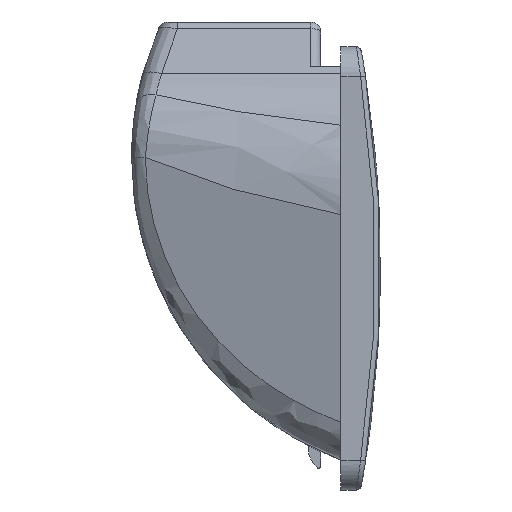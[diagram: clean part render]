
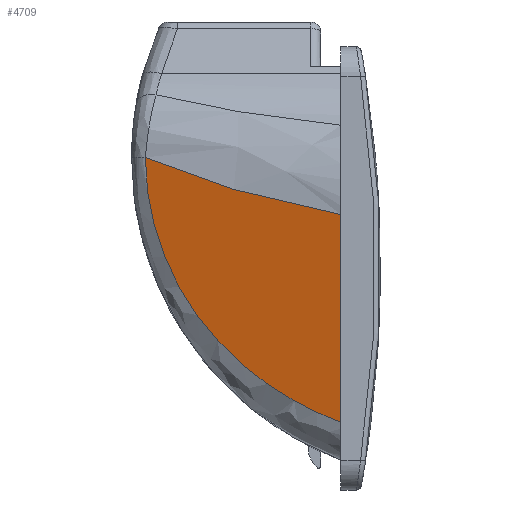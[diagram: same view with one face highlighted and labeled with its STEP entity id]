
A CAD part, left-side view. The second image highlights one B-rep face of the part: STEP entity #4709.
In plain terms, the highlighted planar face has unit normal (-0.952, 0.306, 0).
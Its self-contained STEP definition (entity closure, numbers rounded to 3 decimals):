
#16 = CARTESIAN_POINT ( 'NONE',  ( -41.565, 19.241, 25.993 ) ) ;
#117 = CARTESIAN_POINT ( 'NONE',  ( -44.093, 11.376, 10.983 ) ) ;
#182 = CARTESIAN_POINT ( 'NONE',  ( -46.861, 2.766, 4.845 ) ) ;
#194 = CARTESIAN_POINT ( 'NONE',  ( -47.75, 0., 95.5 ) ) ;
#224 = CARTESIAN_POINT ( 'NONE',  ( -44.231, 10.946, 10.567 ) ) ;
#257 = CARTESIAN_POINT ( 'NONE',  ( -43.262, 13.962, 13.932 ) ) ;
#538 = CARTESIAN_POINT ( 'NONE',  ( -42.147, 17.432, 19.821 ) ) ;
#541 = CARTESIAN_POINT ( 'NONE',  ( -41.446, 19.612, 30.393 ) ) ;
#709 = CARTESIAN_POINT ( 'NONE',  ( -45.307, 7.6, 7.808 ) ) ;
#725 = DIRECTION ( 'NONE',  ( 0., 0., -1. ) ) ;
#756 = LINE ( 'NONE', #4056, #2240 ) ;
#1205 = CARTESIAN_POINT ( 'NONE',  ( -43.119, 14.408, 28.046 ) ) ;
#1276 = CARTESIAN_POINT ( 'NONE',  ( -43.442, 13.404, 13.209 ) ) ;
#1315 = CARTESIAN_POINT ( 'NONE',  ( -42.506, 16.316, 17.564 ) ) ;
#1536 = ORIENTED_EDGE ( 'NONE', *, *, #5172, .T. ) ;
#1616 = CARTESIAN_POINT ( 'NONE',  ( -41.688, 18.86, 24.069 ) ) ;
#1649 = CARTESIAN_POINT ( 'NONE',  ( -41.461, 19.565, 28.519 ) ) ;
#1775 = CARTESIAN_POINT ( 'NONE',  ( -47.75, 0., 24.67 ) ) ;
#1780 = CARTESIAN_POINT ( 'NONE',  ( -45.271, 7.713, 7.889 ) ) ;
#1817 = CARTESIAN_POINT ( 'NONE',  ( -45.152, 8.082, 8.156 ) ) ;
#1842 = CARTESIAN_POINT ( 'NONE',  ( -46.05, 5.287, 6.17 ) ) ;
#2140 = CARTESIAN_POINT ( 'NONE',  ( -41.536, 19.332, 26.555 ) ) ;
#2172 = CARTESIAN_POINT ( 'NONE',  ( -41.867, 18.303, 22.18 ) ) ;
#2240 = VECTOR ( 'NONE', #725, 1000. ) ;
#2250 = CARTESIAN_POINT ( 'NONE',  ( -41.611, 19.098, 25.165 ) ) ;
#2323 = PLANE ( 'NONE',  #6277 ) ;
#2381 = CARTESIAN_POINT ( 'NONE',  ( -43.281, 13.905, 13.856 ) ) ;
#2411 = CARTESIAN_POINT ( 'NONE',  ( -47.75, 0., 3.808 ) ) ;
#2494 = CARTESIAN_POINT ( 'NONE',  ( -47.75, 0., 24.67 ) ) ;
#2670 = CARTESIAN_POINT ( 'NONE',  ( -41.446, 19.612, 30.393 ) ) ;
#2728 = ORIENTED_EDGE ( 'NONE', *, *, #6472, .T. ) ;
#2740 = CARTESIAN_POINT ( 'NONE',  ( -41.925, 18.122, 21.643 ) ) ;
#2869 = CARTESIAN_POINT ( 'NONE',  ( -43.05, 14.622, 14.825 ) ) ;
#2906 = CARTESIAN_POINT ( 'NONE',  ( -45.235, 7.824, 7.969 ) ) ;
#2992 = B_SPLINE_CURVE_WITH_KNOTS ( 'NONE', 3,
 ( #2670, #4822, #1649, #6975, #2140, #5375, #3789, #16, #2250, #1616, #3754, #2172, #5853, #5960, #2740, #4890, #538, #6659, #3968, #6624, #4471, #1315, #4566, #4957, #2869, #4536, #5481, #257, #2381, #1276, #5050, #3327, #117, #3998, #3894, #3367, #224, #3467, #6584, #6134, #1817, #2906, #1780, #6688, #709, #1842, #182, #2411 ),
 .UNSPECIFIED., .F., .F.,
 ( 4, 1, 1, 1, 2, 2, 1, 1, 1, 2, 2, 1, 1, 1, 2, 2, 1, 1, 1, 2, 2, 1, 1, 1, 1, 2, 2, 1, 1, 1, 1, 2, 2, 4 ),
 ( 0., 0.062, 0.094, 0.109, 0.117, 0.125, 0.187, 0.219, 0.234, 0.242, 0.25, 0.312, 0.344, 0.359, 0.367, 0.375, 0.437, 0.469, 0.484, 0.492, 0.5, 0.562, 0.594, 0.609, 0.617, 0.621, 0.625, 0.687, 0.719, 0.734, 0.742, 0.746, 0.75, 1. ),
 .UNSPECIFIED. ) ;
#3196 = CARTESIAN_POINT ( 'NONE',  ( -41.446, 19.612, 30.393 ) ) ;
#3327 = CARTESIAN_POINT ( 'NONE',  ( -43.948, 11.828, 11.439 ) ) ;
#3367 = CARTESIAN_POINT ( 'NONE',  ( -44.221, 10.981, 10.599 ) ) ;
#3383 =( BOUNDED_CURVE ( )  B_SPLINE_CURVE ( 3, ( #1775, #5305, #1205, #541 ),
 .UNSPECIFIED., .F., .T. ) 
 B_SPLINE_CURVE_WITH_KNOTS ( ( 4, 4 ),
 ( 5.235, 5.664 ),
 .UNSPECIFIED. ) 
 CURVE ( )  GEOMETRIC_REPRESENTATION_ITEM ( )  RATIONAL_B_SPLINE_CURVE ( ( 1., 0.985, 0.985, 1. ) ) 
 REPRESENTATION_ITEM ( '' )  );
#3467 = CARTESIAN_POINT ( 'NONE',  ( -44.409, 10.394, 10.04 ) ) ;
#3530 = ORIENTED_EDGE ( 'NONE', *, *, #5790, .F. ) ;
#3754 = CARTESIAN_POINT ( 'NONE',  ( -41.803, 18.503, 22.807 ) ) ;
#3789 = CARTESIAN_POINT ( 'NONE',  ( -41.56, 19.257, 26.088 ) ) ;
#3894 = CARTESIAN_POINT ( 'NONE',  ( -44.199, 11.047, 10.663 ) ) ;
#3928 = CARTESIAN_POINT ( 'NONE',  ( -47.75, 0., 3.808 ) ) ;
#3968 = CARTESIAN_POINT ( 'NONE',  ( -42.421, 16.581, 18.06 ) ) ;
#3998 = CARTESIAN_POINT ( 'NONE',  ( -44.167, 11.146, 10.759 ) ) ;
#4056 = CARTESIAN_POINT ( 'NONE',  ( -47.75, 0., 44. ) ) ;
#4471 = CARTESIAN_POINT ( 'NONE',  ( -42.491, 16.361, 17.647 ) ) ;
#4536 = CARTESIAN_POINT ( 'NONE',  ( -43.173, 14.241, 14.302 ) ) ;
#4566 = CARTESIAN_POINT ( 'NONE',  ( -42.633, 15.919, 16.838 ) ) ;
#4575 = FACE_OUTER_BOUND ( 'NONE', #6356, .T. ) ;
#4709 = ADVANCED_FACE ( 'NONE', ( #4575 ), #2323, .T. ) ;
#4822 = CARTESIAN_POINT ( 'NONE',  ( -41.446, 19.613, 29.643 ) ) ;
#4890 = CARTESIAN_POINT ( 'NONE',  ( -42.014, 17.844, 20.855 ) ) ;
#4957 = CARTESIAN_POINT ( 'NONE',  ( -42.816, 15.351, 15.891 ) ) ;
#5050 = CARTESIAN_POINT ( 'NONE',  ( -43.667, 12.703, 12.372 ) ) ;
#5155 = VERTEX_POINT ( 'NONE', #3196 ) ;
#5172 = EDGE_CURVE ( 'NONE', #6295, #5155, #3383, .T. ) ;
#5192 = VERTEX_POINT ( 'NONE', #3928 ) ;
#5305 = CARTESIAN_POINT ( 'NONE',  ( -45.253, 7.77, 26.109 ) ) ;
#5375 = CARTESIAN_POINT ( 'NONE',  ( -41.55, 19.288, 26.275 ) ) ;
#5481 = CARTESIAN_POINT ( 'NONE',  ( -43.226, 14.074, 14.079 ) ) ;
#5599 = DIRECTION ( 'NONE',  ( -0.952, 0.306, 0. ) ) ;
#5790 = EDGE_CURVE ( 'NONE', #6295, #5192, #756, .T. ) ;
#5853 = CARTESIAN_POINT ( 'NONE',  ( -41.896, 18.214, 21.912 ) ) ;
#5960 = CARTESIAN_POINT ( 'NONE',  ( -41.915, 18.153, 21.734 ) ) ;
#6107 = DIRECTION ( 'NONE',  ( -0.306, -0.952, 0. ) ) ;
#6134 = CARTESIAN_POINT ( 'NONE',  ( -44.989, 8.591, 8.538 ) ) ;
#6277 = AXIS2_PLACEMENT_3D ( 'NONE', #194, #5599, #6107 ) ;
#6295 = VERTEX_POINT ( 'NONE', #2494 ) ;
#6356 = EDGE_LOOP ( 'NONE', ( #1536, #2728, #3530 ) ) ;
#6472 = EDGE_CURVE ( 'NONE', #5155, #5192, #2992, .T. ) ;
#6584 = CARTESIAN_POINT ( 'NONE',  ( -44.669, 9.585, 9.325 ) ) ;
#6624 = CARTESIAN_POINT ( 'NONE',  ( -42.463, 16.45, 17.812 ) ) ;
#6659 = CARTESIAN_POINT ( 'NONE',  ( -42.325, 16.877, 18.642 ) ) ;
#6688 = CARTESIAN_POINT ( 'NONE',  ( -45.295, 7.639, 7.836 ) ) ;
#6975 = CARTESIAN_POINT ( 'NONE',  ( -41.507, 19.423, 27.21 ) ) ;
